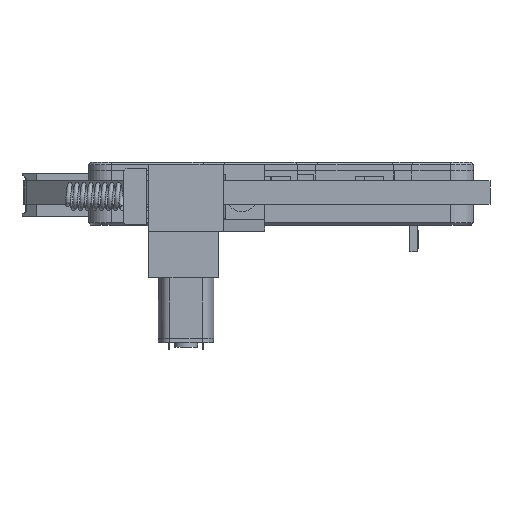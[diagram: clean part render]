
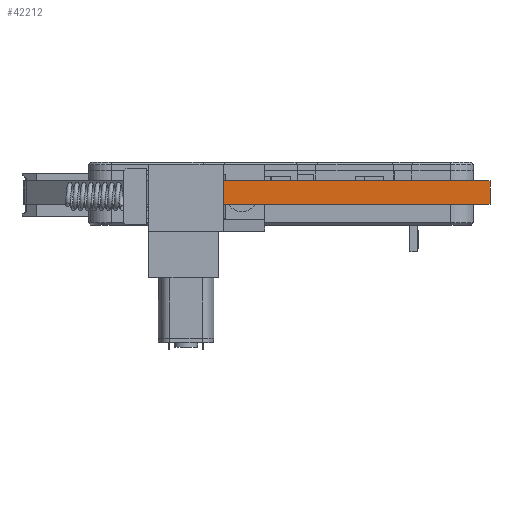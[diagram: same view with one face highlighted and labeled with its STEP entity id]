
A CAD part, left-side view. The second image highlights one B-rep face of the part: STEP entity #42212.
In plain terms, the highlighted planar face has unit normal (-1, 0, 0) as drawn and (1, 0, 0) by its records, which use the part's own axes.
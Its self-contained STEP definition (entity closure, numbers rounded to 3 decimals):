
#1003 = EDGE_CURVE ( 'NONE', #22990, #4954, #20763, .T. ) ;
#1901 = CARTESIAN_POINT ( 'NONE',  ( 122.623, -39.963, -4.5 ) ) ;
#3485 = CARTESIAN_POINT ( 'NONE',  ( 122.623, 32.745, -4.5 ) ) ;
#4954 = VERTEX_POINT ( 'NONE', #87703 ) ;
#16592 = LINE ( 'NONE', #62641, #85281 ) ;
#17245 = CARTESIAN_POINT ( 'NONE',  ( 122.623, 32.656, -4.5 ) ) ;
#20763 = LINE ( 'NONE', #3485, #68471 ) ;
#22990 = VERTEX_POINT ( 'NONE', #36558 ) ;
#25389 = VECTOR ( 'NONE', #112825, 1000. ) ;
#26196 = ORIENTED_EDGE ( 'NONE', *, *, #63130, .T. ) ;
#26210 = PLANE ( 'NONE',  #35087 ) ;
#35087 = AXIS2_PLACEMENT_3D ( 'NONE', #17245, #35238, #97968 ) ;
#35238 = DIRECTION ( 'NONE',  ( 1., 0., 0. ) ) ;
#36558 = CARTESIAN_POINT ( 'NONE',  ( 122.623, 32.745, -4.5 ) ) ;
#38857 = LINE ( 'NONE', #65690, #59898 ) ;
#42212 = ADVANCED_FACE ( 'NONE', ( #91936 ), #26210, .T. ) ;
#47374 = ORIENTED_EDGE ( 'NONE', *, *, #80981, .F. ) ;
#56723 = DIRECTION ( 'NONE',  ( 0., -1., 0. ) ) ;
#59898 = VECTOR ( 'NONE', #56723, 1000. ) ;
#62641 = CARTESIAN_POINT ( 'NONE',  ( 122.623, -39.963, -4.5 ) ) ;
#63130 = EDGE_CURVE ( 'NONE', #89430, #112394, #16592, .T. ) ;
#63626 = ORIENTED_EDGE ( 'NONE', *, *, #82699, .T. ) ;
#65690 = CARTESIAN_POINT ( 'NONE',  ( 122.623, 32.656, -4.5 ) ) ;
#66192 = DIRECTION ( 'NONE',  ( 0., 0., -1. ) ) ;
#68471 = VECTOR ( 'NONE', #66192, 1000. ) ;
#70358 = CARTESIAN_POINT ( 'NONE',  ( 122.623, -39.963, -9.5 ) ) ;
#71625 = DIRECTION ( 'NONE',  ( 0., 0., -1. ) ) ;
#78130 = EDGE_LOOP ( 'NONE', ( #47374, #110726, #63626, #26196 ) ) ;
#80981 = EDGE_CURVE ( 'NONE', #4954, #112394, #99770, .T. ) ;
#82699 = EDGE_CURVE ( 'NONE', #22990, #89430, #38857, .T. ) ;
#85281 = VECTOR ( 'NONE', #71625, 1000. ) ;
#87703 = CARTESIAN_POINT ( 'NONE',  ( 122.623, 32.745, -9.5 ) ) ;
#89430 = VERTEX_POINT ( 'NONE', #1901 ) ;
#91936 = FACE_OUTER_BOUND ( 'NONE', #78130, .T. ) ;
#97968 = DIRECTION ( 'NONE',  ( 0., 1., 0. ) ) ;
#99770 = LINE ( 'NONE', #103788, #25389 ) ;
#103788 = CARTESIAN_POINT ( 'NONE',  ( 122.623, 32.656, -9.5 ) ) ;
#110726 = ORIENTED_EDGE ( 'NONE', *, *, #1003, .F. ) ;
#112394 = VERTEX_POINT ( 'NONE', #70358 ) ;
#112825 = DIRECTION ( 'NONE',  ( 0., -1., 0. ) ) ;
